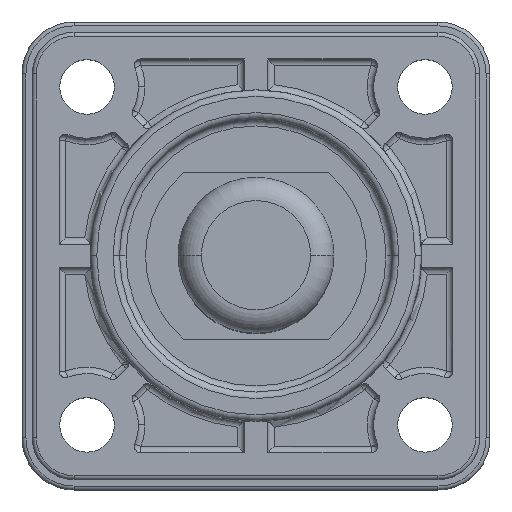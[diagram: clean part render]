
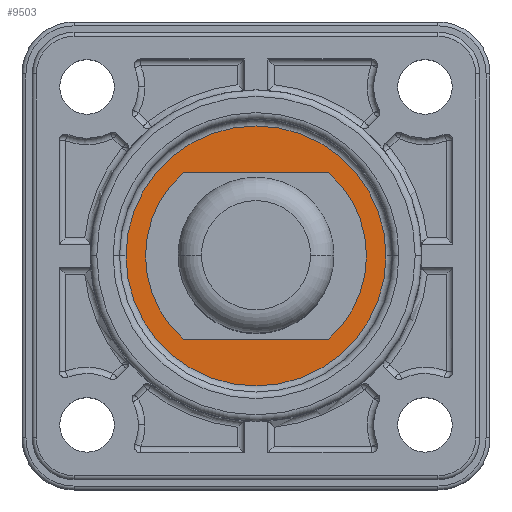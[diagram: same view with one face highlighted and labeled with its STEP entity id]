
A CAD part, top view. The second image highlights one B-rep face of the part: STEP entity #9503.
In plain terms, the highlighted planar face has unit normal (0, 0, 1).
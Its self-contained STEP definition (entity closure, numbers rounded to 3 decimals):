
#233 = DIRECTION ( 'NONE',  ( 0., 0., -1. ) ) ;
#304 = CARTESIAN_POINT ( 'NONE',  ( -10.397, 0.636, 1.5 ) ) ;
#390 = VERTEX_POINT ( 'NONE', #7882 ) ;
#546 = ORIENTED_EDGE ( 'NONE', *, *, #2426, .T. ) ;
#912 = CARTESIAN_POINT ( 'NONE',  ( -5.991, -5.764, 1.5 ) ) ;
#1063 = DIRECTION ( 'NONE',  ( 1., 0., 0. ) ) ;
#1074 = CARTESIAN_POINT ( 'NONE',  ( -21.584, 0.636, 1.5 ) ) ;
#1295 = CIRCLE ( 'NONE', #5774, 8.5 ) ;
#1349 = CARTESIAN_POINT ( 'NONE',  ( -15.991, -5.764, 1.5 ) ) ;
#1507 = LINE ( 'NONE', #4773, #8514 ) ;
#1511 = CARTESIAN_POINT ( 'NONE',  ( -15.991, -5.764, 1.5 ) ) ;
#1649 = EDGE_CURVE ( 'NONE', #8385, #390, #1507, .T. ) ;
#1948 = AXIS2_PLACEMENT_3D ( 'NONE', #1349, #7754, #2275 ) ;
#2025 = VERTEX_POINT ( 'NONE', #9863 ) ;
#2047 = AXIS2_PLACEMENT_3D ( 'NONE', #8322, #6513, #1063 ) ;
#2275 = DIRECTION ( 'NONE',  ( 1., 0., 0. ) ) ;
#2296 = ORIENTED_EDGE ( 'NONE', *, *, #3189, .T. ) ;
#2369 = AXIS2_PLACEMENT_3D ( 'NONE', #1511, #7913, #2440 ) ;
#2422 = CARTESIAN_POINT ( 'NONE',  ( -15.991, -5.764, 1.5 ) ) ;
#2426 = EDGE_CURVE ( 'NONE', #390, #4023, #1295, .T. ) ;
#2440 = DIRECTION ( 'NONE',  ( 1., 0., 0. ) ) ;
#2620 = ORIENTED_EDGE ( 'NONE', *, *, #8292, .T. ) ;
#2727 = CARTESIAN_POINT ( 'NONE',  ( -15.991, -5.764, 1.5 ) ) ;
#2894 = CIRCLE ( 'NONE', #1948, 10. ) ;
#2981 = CIRCLE ( 'NONE', #2369, 8.5 ) ;
#2989 = ORIENTED_EDGE ( 'NONE', *, *, #1649, .T. ) ;
#3189 = EDGE_CURVE ( 'NONE', #2025, #8385, #7142, .T. ) ;
#3351 = DIRECTION ( 'NONE',  ( 1., 0., 0. ) ) ;
#3515 = EDGE_LOOP ( 'NONE', ( #2620, #9028, #2296, #2989, #546 ) ) ;
#3795 = DIRECTION ( 'NONE',  ( 1., 0., 0. ) ) ;
#4023 = VERTEX_POINT ( 'NONE', #1074 ) ;
#4169 = VERTEX_POINT ( 'NONE', #304 ) ;
#4773 = CARTESIAN_POINT ( 'NONE',  ( -1.991, -12.164, 1.5 ) ) ;
#5307 = AXIS2_PLACEMENT_3D ( 'NONE', #2422, #8791, #3351 ) ;
#5634 = ORIENTED_EDGE ( 'NONE', *, *, #8742, .T. ) ;
#5712 = CARTESIAN_POINT ( 'NONE',  ( -15.991, -5.764, 1.5 ) ) ;
#5774 = AXIS2_PLACEMENT_3D ( 'NONE', #5712, #233, #6622 ) ;
#5882 = FACE_BOUND ( 'NONE', #3515, .T. ) ;
#5900 = LINE ( 'NONE', #10586, #8036 ) ;
#6067 = EDGE_CURVE ( 'NONE', #9608, #10967, #7761, .T. ) ;
#6513 = DIRECTION ( 'NONE',  ( 0., 0., 1. ) ) ;
#6622 = DIRECTION ( 'NONE',  ( 1., 0., 0. ) ) ;
#6939 = EDGE_LOOP ( 'NONE', ( #5634, #7251 ) ) ;
#7142 = CIRCLE ( 'NONE', #11813, 8.5 ) ;
#7251 = ORIENTED_EDGE ( 'NONE', *, *, #6067, .T. ) ;
#7754 = DIRECTION ( 'NONE',  ( 0., 0., 1. ) ) ;
#7761 = CIRCLE ( 'NONE', #5307, 10. ) ;
#7882 = CARTESIAN_POINT ( 'NONE',  ( -21.584, -12.164, 1.5 ) ) ;
#7913 = DIRECTION ( 'NONE',  ( 0., 0., -1. ) ) ;
#8036 = VECTOR ( 'NONE', #11494, 1000. ) ;
#8292 = EDGE_CURVE ( 'NONE', #4023, #4169, #5900, .T. ) ;
#8322 = CARTESIAN_POINT ( 'NONE',  ( -1.991, -19.764, 1.5 ) ) ;
#8385 = VERTEX_POINT ( 'NONE', #9850 ) ;
#8514 = VECTOR ( 'NONE', #11163, 1000. ) ;
#8742 = EDGE_CURVE ( 'NONE', #10967, #9608, #2894, .T. ) ;
#8791 = DIRECTION ( 'NONE',  ( 0., 0., 1. ) ) ;
#9028 = ORIENTED_EDGE ( 'NONE', *, *, #10298, .T. ) ;
#9085 = DIRECTION ( 'NONE',  ( 0., 0., -1. ) ) ;
#9503 = ADVANCED_FACE ( 'NONE', ( #10452, #5882 ), #10158, .T. ) ;
#9608 = VERTEX_POINT ( 'NONE', #10289 ) ;
#9850 = CARTESIAN_POINT ( 'NONE',  ( -10.397, -12.164, 1.5 ) ) ;
#9863 = CARTESIAN_POINT ( 'NONE',  ( -7.491, -5.764, 1.5 ) ) ;
#10158 = PLANE ( 'NONE',  #2047 ) ;
#10289 = CARTESIAN_POINT ( 'NONE',  ( -25.991, -5.764, 1.5 ) ) ;
#10298 = EDGE_CURVE ( 'NONE', #4169, #2025, #2981, .T. ) ;
#10452 = FACE_OUTER_BOUND ( 'NONE', #6939, .T. ) ;
#10586 = CARTESIAN_POINT ( 'NONE',  ( -1.991, 0.636, 1.5 ) ) ;
#10967 = VERTEX_POINT ( 'NONE', #912 ) ;
#11163 = DIRECTION ( 'NONE',  ( -1., 0., 0. ) ) ;
#11494 = DIRECTION ( 'NONE',  ( 1., 0., 0. ) ) ;
#11813 = AXIS2_PLACEMENT_3D ( 'NONE', #2727, #9085, #3795 ) ;
